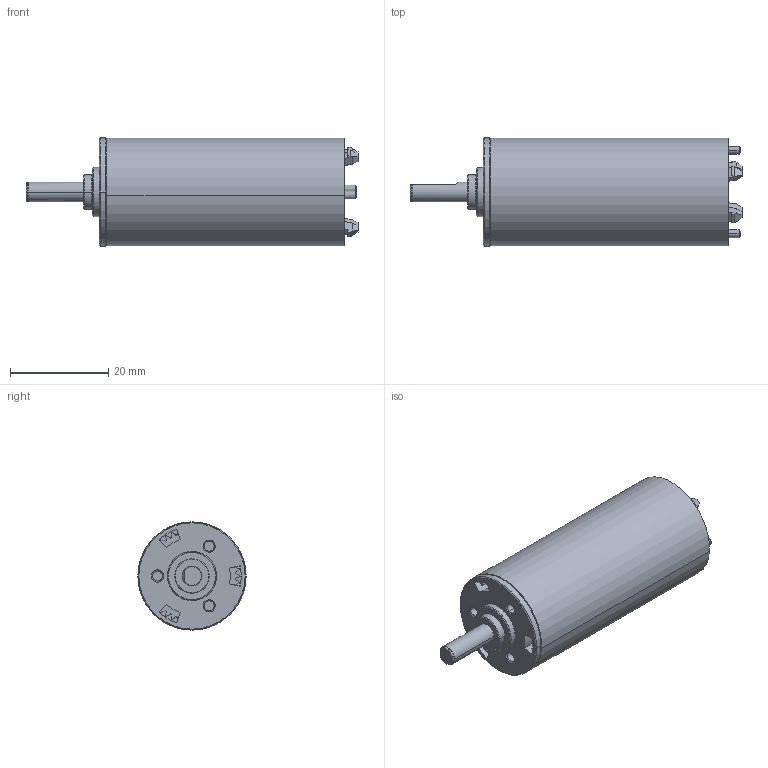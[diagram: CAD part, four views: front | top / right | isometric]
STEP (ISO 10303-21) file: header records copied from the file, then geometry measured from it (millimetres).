
FILE_DESCRIPTION((''),'2;1');
FILE_NAME('GP22L','2016-10-04T',('mmagvisi'),(''),'CREO PARAMETRIC BY PTC INC, 2016050','CREO PARAMETRIC BY PTC INC, 2016050','');
FILE_SCHEMA(('CONFIG_CONTROL_DESIGN'));
Length unit declared in the file: millimetre
Products named in the file (1): GP22L
Bounding box: 67.5 x 22 x 22 mm (x, y, z)
Volume: 18784.4 mm3; surface area: 5530.1 mm2
Topology: 1 solids, 34 shells, 645 faces, 1643 edges, 1082 vertices
Faces by surface type: plane 247, bspline 176, cylinder 136, cone 85, torus 1
Entity records: 27133 total; most frequent: CARTESIAN_POINT 7566, ORIENTED_EDGE 3286, DIRECTION 2532, PRESENTATION_STYLE_ASSIGNMENT 1644, STYLED_ITEM 1644, CURVE_STYLE 1643, EDGE_CURVE 1643, VERTEX_POINT 1082
